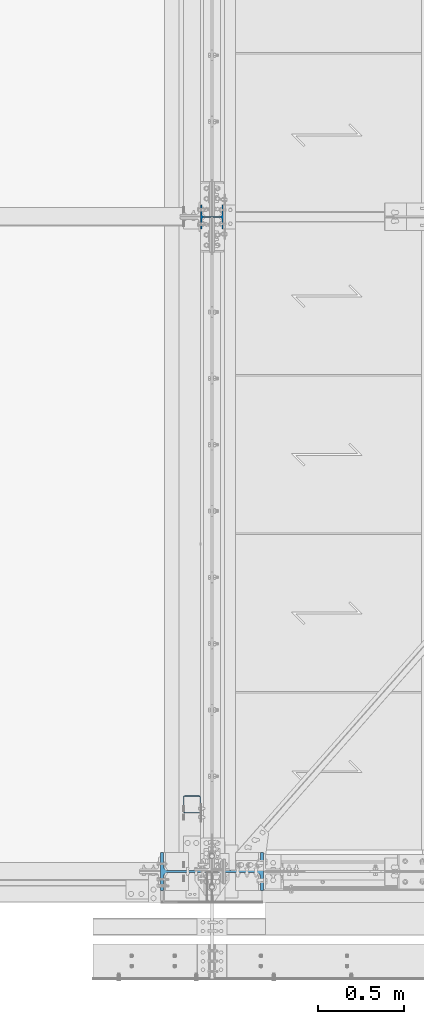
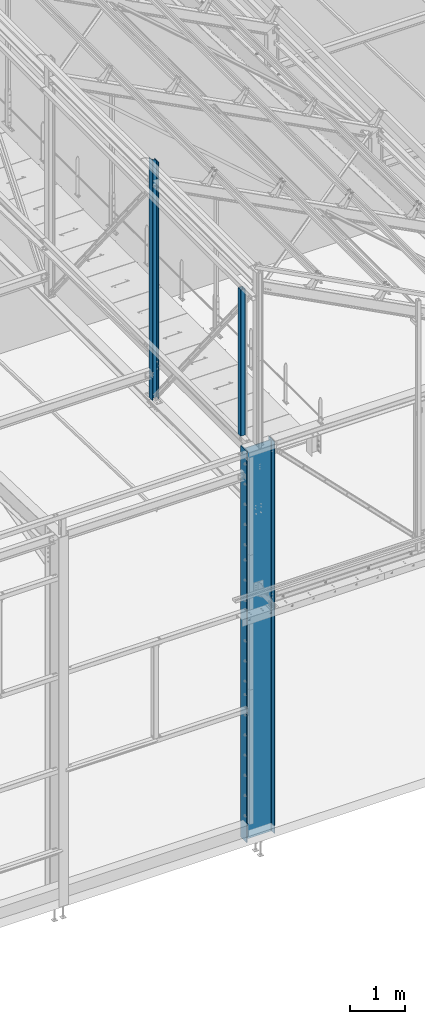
# One storey, part 3 of 362: 3 columns, 3 elements without a shape of their own.
"""IFC2X3 building model written with IfcOpenShell, lengths in millimetres."""

import ifcopenshell
import ifcopenshell.guid

model = None  # the IFC model being written
_history = None  # IfcOwnerHistory: only IFC2X3 demands one
_inside = {}  # id of a spatial element -> (the spatial element, [elements in it])
_under = {}  # id of a project, library or spatial element -> (it, [spatial elements below it])
_declared = {}  # id of a project -> (the project, [libraries it declares])
_typed = {}  # id of a type object -> (the type object, [elements of that type])
_made_of = {}  # id of a material, layer set ... -> (it, [elements and type objects made of it])


def new_model(schema):
    """Start an empty IFC model of exactly this schema.

    Asked for "IFC4X3", IfcOpenShell would pick the latest addendum, in which some entities
    have other attributes; the version numbers below select the first issue.
    IFC2X3 requires an IfcOwnerHistory on every rooted entity: one is made here for all.
    """
    global model, _history
    if schema == "IFC4X3":
        model = ifcopenshell.file(schema_version=(4, 3, 0, 0))
    else:
        model = ifcopenshell.file(schema=schema)
    _inside.clear()
    _under.clear()
    _declared.clear()
    _typed.clear()
    _made_of.clear()
    _history = None
    if model.schema == "IFC2X3":
        org = make("IfcOrganization", Name="unknown")
        user = make(
            "IfcPersonAndOrganization",
            ThePerson=make("IfcPerson", FamilyName="unknown"),
            TheOrganization=org,
        )
        app = make(
            "IfcApplication",
            ApplicationDeveloper=org,
            Version="unknown",
            ApplicationFullName="unknown",
            ApplicationIdentifier="unknown",
        )
        _history = make(
            "IfcOwnerHistory",
            OwningUser=user,
            OwningApplication=app,
            ChangeAction="ADDED",
            CreationDate=0,
        )
    return model


def make(cls, **values):
    """One entity of the class cls with the attributes given. An attribute that is None is left unset."""
    return model.create_entity(
        cls, **{name: value for name, value in values.items() if value is not None}
    )


def rooted(cls, **values):
    """An entity with a GlobalId (a new one), such as an element, a storey or a relation."""
    return make(cls, GlobalId=ifcopenshell.guid.new(), OwnerHistory=_history, **values)


def si_unit(unit_type, name, prefix=None):
    """IfcSIUnit, for example si_unit("LENGTHUNIT", "METRE", prefix="MILLI")."""
    return make("IfcSIUnit", UnitType=unit_type, Prefix=prefix, Name=name)


def assignment(units):
    """IfcUnitAssignment: the units of a project."""
    return None if units is None else make("IfcUnitAssignment", Units=units)


def point(xyz):
    """IfcCartesianPoint."""
    return None if xyz is None else make("IfcCartesianPoint", Coordinates=xyz)


def direction(xyz):
    """IfcDirection."""
    return None if xyz is None else make("IfcDirection", DirectionRatios=xyz)


def frame(location, z_axis=None, x_axis=None):
    """IfcAxis2Placement3D, a coordinate frame: its origin and axes. An axis left out is left unset."""
    return make(
        "IfcAxis2Placement3D",
        Location=point(location),
        Axis=direction(z_axis),
        RefDirection=direction(x_axis),
    )


def frame_2d(location, x_axis=None):
    """IfcAxis2Placement2D, a coordinate frame in the plane: its origin and x axis."""
    return make(
        "IfcAxis2Placement2D", Location=point(location), RefDirection=direction(x_axis)
    )


def origin_with_axes():
    """The frame at (0, 0, 0) with the z axis (0, 0, 1) and the x axis (1, 0, 0) written out."""
    return frame((0.0, 0.0, 0.0), z_axis=(0.0, 0.0, 1.0), x_axis=(1.0, 0.0, 0.0))


def origin_2d_with_axis():
    """The frame at (0, 0) in the plane with the x axis (1, 0) written out."""
    return frame_2d((0.0, 0.0), x_axis=(1.0, 0.0))


def place(relative_to, where):
    """IfcLocalPlacement: puts the frame where relative to a parent placement (None: the world)."""
    return make(
        "IfcLocalPlacement", PlacementRelTo=relative_to, RelativePlacement=where
    )


def context(
    kind, dimensions, precision=None, world=None, true_north=None, identifier=None
):
    """IfcGeometricRepresentationContext, for example the 3D "Model" context."""
    return make(
        "IfcGeometricRepresentationContext",
        ContextIdentifier=identifier,
        ContextType=kind,
        CoordinateSpaceDimension=dimensions,
        Precision=precision,
        WorldCoordinateSystem=world,
        TrueNorth=true_north,
    )


def subcontext(parent, identifier, kind, view, scale=None):
    """IfcGeometricRepresentationSubContext, for example "Body" below "Model"."""
    return make(
        "IfcGeometricRepresentationSubContext",
        ContextIdentifier=identifier,
        ContextType=kind,
        ParentContext=parent,
        TargetScale=scale,
        TargetView=view,
    )


def project(units=None, contexts=None):
    """IfcProject with its units and contexts."""
    return rooted(
        "IfcProject",
        Name="project",
        RepresentationContexts=contexts,
        UnitsInContext=assignment(units),
    )


def spatial(cls, under=None, at=None, **own):
    """A site, building, storey or space (cls), placed at a placement, below another one or the project."""
    s = rooted(cls, ObjectPlacement=at, **own)
    if under is not None:
        _under.setdefault(under.id(), (under, []))[1].append(s)
    return s


def profile(cls, at=None, kind="AREA", **sizes):
    """A parametric profile (cls). Its sizes go by their IFC names, for example OverallWidth=200.0."""
    return make(cls, ProfileType=kind, Position=at, **sizes)


def hollow_rectangle(**sizes):
    """IfcRectangleHollowProfileDef."""
    return profile("IfcRectangleHollowProfileDef", **sizes)


def i_section(**sizes):
    """IfcIShapeProfileDef."""
    return profile("IfcIShapeProfileDef", **sizes)


def extrude(swept, where, along, depth):
    """IfcExtrudedAreaSolid: the profile swept, set in the frame where, extruded along a direction by depth."""
    return make(
        "IfcExtrudedAreaSolid",
        SweptArea=swept,
        Position=where,
        ExtrudedDirection=direction(along),
        Depth=depth,
    )


def clip(a, b, op="DIFFERENCE"):
    """IfcBooleanClippingResult: the solid a cut by the half space b."""
    return make(
        "IfcBooleanClippingResult", Operator=op, FirstOperand=a, SecondOperand=b
    )


def halfspace(plane, agree):
    """IfcHalfSpaceSolid: all space on one side of the plane z = 0 of the frame plane."""
    return make(
        "IfcHalfSpaceSolid",
        BaseSurface=make("IfcPlane", Position=plane),
        AgreementFlag=agree,
    )


def shape(context_of_items, identifier, shape_type, items):
    """IfcShapeRepresentation: the items that make up one representation, for example the "Body"."""
    return make(
        "IfcShapeRepresentation",
        ContextOfItems=context_of_items,
        RepresentationIdentifier=identifier,
        RepresentationType=shape_type,
        Items=items,
    )


def material(Name=None, Category=None):
    """IfcMaterial."""
    return make("IfcMaterial", Name=Name, Category=Category)


def made_of(thing, what):
    """Note that an element or type object is made of a material, layer set ...; save() writes the relation."""
    if what is not None:
        _made_of.setdefault(what.id(), (what, []))[1].append(thing)
    return thing


def type_object(cls, material=None, **own):
    """A type object (cls), such as IfcWallType, which elements share."""
    return made_of(rooted(cls, **own), material)


def element(
    cls,
    number,
    at=None,
    inside=None,
    cuts=None,
    type_object=None,
    material=None,
    context=None,
    identifier="Body",
    shape_type=None,
    held_by="IfcProductDefinitionShape",
    body=None,
    shapes=None,
    **own,
):
    """One element of the class cls, such as IfcWall. Its Tag is "e" and its number.

    at: its placement. inside: the storey or other place that contains it. cuts: it is an
    opening in that element (IfcRelVoidsElement). A single representation is given by context,
    identifier, shape_type and body (its items); several are given by shapes. held_by: the class
    of the entity that holds the representations. save() writes the other relations.
    """
    e = rooted(cls, Tag="e%d" % number, ObjectPlacement=at, **own)
    if body is not None:
        shapes = [shape(context, identifier, shape_type, body)]
    if shapes is not None:
        e.Representation = make(held_by, Representations=shapes)
    if inside is not None:
        _inside.setdefault(inside.id(), (inside, []))[1].append(e)
    if cuts is not None:
        rooted(
            "IfcRelVoidsElement", RelatingBuildingElement=cuts, RelatedOpeningElement=e
        )
    if type_object is not None:
        _typed.setdefault(type_object.id(), (type_object, []))[1].append(e)
    return made_of(e, material)


def aggregate(whole, parts):
    """IfcRelAggregates: a whole, such as a stair, and the parts it consists of."""
    return rooted("IfcRelAggregates", RelatingObject=whole, RelatedObjects=parts)


def save(model, path):
    """Write the relations noted so far, then the file.

    IfcRelAggregates (storeys below a building ...), IfcRelContainedInSpatialStructure (elements
    in a storey), IfcRelDefinesByType, IfcRelAssociatesMaterial and IfcRelDeclares: one each for
    every whole, place, type object, material and project.
    """
    for whole, parts in _under.values():
        aggregate(whole, parts)
    for where, things in _inside.values():
        rooted(
            "IfcRelContainedInSpatialStructure",
            RelatedElements=things,
            RelatingStructure=where,
        )
    for kind, things in _typed.values():
        rooted("IfcRelDefinesByType", RelatedObjects=things, RelatingType=kind)
    for what, things in _made_of.values():
        rooted("IfcRelAssociatesMaterial", RelatedObjects=things, RelatingMaterial=what)
    for by, libraries in _declared.values():
        rooted("IfcRelDeclares", RelatingContext=by, RelatedDefinitions=libraries)
    model.write(path)


model = new_model("IFC2X3")

# Units and contexts
model_context = context("Model", 3, precision=1e-05, world=origin_with_axes())
body_context = subcontext(model_context, "Body", "Model", "MODEL_VIEW")
ifc_project = project(units=[si_unit("LENGTHUNIT", "METRE", prefix="MILLI"), si_unit("AREAUNIT", "SQUARE_METRE"), si_unit("VOLUMEUNIT", "CUBIC_METRE"), si_unit("MASSUNIT", "GRAM", prefix="KILO"), si_unit("TIMEUNIT", "SECOND"), si_unit("PLANEANGLEUNIT", "RADIAN"), si_unit("SOLIDANGLEUNIT", "STERADIAN"), si_unit("THERMODYNAMICTEMPERATUREUNIT", "DEGREE_CELSIUS"), si_unit("LUMINOUSINTENSITYUNIT", "LUMEN")], contexts=[model_context])

# Site, building, storey
site_placement = place(None, origin_with_axes())
site = spatial("IfcSite", under=ifc_project, at=site_placement, Name="Undefined", CompositionType="ELEMENT")
building_placement = place(site_placement, origin_with_axes())
building = spatial("IfcBuilding", under=site, at=building_placement, Name="Undefined", CompositionType="ELEMENT")
storey_placement = place(building_placement, origin_with_axes())
storey = spatial("IfcBuildingStorey", under=building, at=storey_placement, Name="Undefined", CompositionType="ELEMENT", Elevation=0.0)

# Assembly, column
assembly_1_placement = place(storey_placement, origin_with_axes())
assembly_1 = element("IfcElementAssembly", 1, at=assembly_1_placement, inside=storey, Name="MONTANT", AssemblyPlace="NOTDEFINED", PredefinedType="NOTDEFINED")
ifc_material_1 = material(Name="Undefined/S235-E24")
column_type_1 = type_object("IfcColumnType", Name="TUBE-C-100*100*4", PredefinedType="NOTDEFINED")
column_1_placement = place(assembly_1_placement, frame((12563.5001162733, 389.9999987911, 8555.00000000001), z_axis=(0.0, 0.0, 1.0), x_axis=(0.0, -1.0, 0.0)))
column_1 = element("IfcColumn", 2, at=column_1_placement, type_object=column_type_1, material=ifc_material_1, Name="MONTANT", ObjectType="TUBE-C-100*100*4", context=body_context, shape_type="SweptSolid", body=[
    extrude(hollow_rectangle(XDim=100.0, YDim=100.0, WallThickness=4.0, InnerFilletRadius=4.0, OuterFilletRadius=8.0, at=origin_2d_with_axis()), frame((0.0, 0.0, 3260.0), z_axis=(0.0, 0.0, -1.0), x_axis=(0.0, 1.0, 0.0)), (0.0, 0.0, 1.0), 3260.0),
])
aggregate(assembly_1, [column_1])

assembly_2_placement = place(storey_placement, origin_with_axes())
assembly_2 = element("IfcElementAssembly", 3, at=assembly_2_placement, inside=storey, Name="MONTANT", AssemblyPlace="NOTDEFINED", PredefinedType="NOTDEFINED")
ifc_material_2 = material(Name="Undefined/S275-E28")
column_type_2 = type_object("IfcColumnType", Name="HEA140", PredefinedType="NOTDEFINED")
column_2_placement = place(assembly_2_placement, frame((12680.0, 3800.0, 7260.0), z_axis=(0.0, 0.0, 1.0), x_axis=(-1.0, 0.0, 0.0)))
column_2 = element("IfcColumn", 4, at=column_2_placement, type_object=column_type_2, material=ifc_material_2, Name="MONTANT", ObjectType="HEA140", context=body_context, shape_type="Clipping", body=[
    clip(extrude(i_section(OverallWidth=140.0, OverallDepth=133.0, WebThickness=5.5, FlangeThickness=8.5, FilletRadius=12.0, at=origin_2d_with_axis()), frame((0.0, 0.0, 5353.83208547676), z_axis=(0.0, 0.0, -1.0), x_axis=(0.0, 1.0, 0.0)), (0.0, 0.0, 1.0), 5353.83), halfspace(frame((-66.5, 70.0, 5272.97130380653), z_axis=(-0.463528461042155, -7.08866187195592e-09, 0.886082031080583), x_axis=(0.886082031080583, 0.0, 0.463528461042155)), False)),
])
aggregate(assembly_2, [column_2])

assembly_3_placement = place(storey_placement, origin_with_axes())
assembly_3 = element("IfcElementAssembly", 5, at=assembly_3_placement, inside=storey, Name="POTEAU", AssemblyPlace="NOTDEFINED", PredefinedType="NOTDEFINED")
column_type_3 = type_object("IfcColumnType", Name="IPE600", PredefinedType="NOTDEFINED")
column_3_placement = place(assembly_3_placement, frame((12679.9971504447, 0.0, -185.0), z_axis=(0.0, 0.0, 1.0), x_axis=(-1.0, 0.0, 0.0)))
column_3 = element("IfcColumn", 6, at=column_3_placement, type_object=column_type_3, material=ifc_material_2, Name="POTEAU", ObjectType="IPE600", context=body_context, shape_type="SweptSolid", body=[
    extrude(i_section(OverallWidth=220.0, OverallDepth=600.0, WebThickness=12.0, FlangeThickness=19.0, FilletRadius=24.0, at=origin_2d_with_axis()), frame((-4.61897654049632e-19, 0.0, 8725.0000000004), z_axis=(0.0, 0.0, -1.0), x_axis=(0.0, 1.0, 0.0)), (0.0, 0.0, 1.0), 8725.0),
])
aggregate(assembly_3, [column_3])

save(model, "model.ifc")
